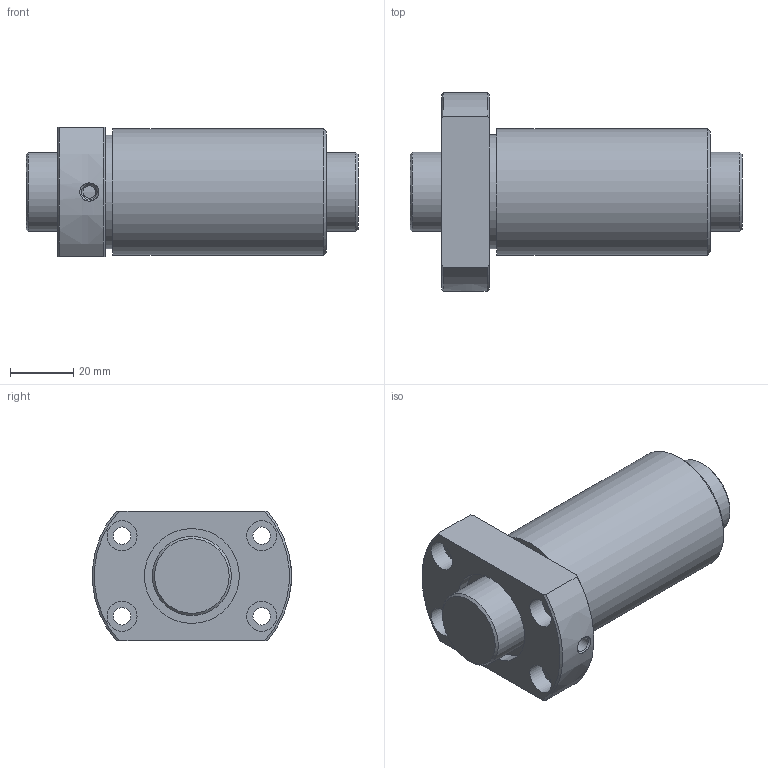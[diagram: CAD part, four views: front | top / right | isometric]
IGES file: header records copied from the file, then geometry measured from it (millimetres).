
Start section: Data from Parasolid IGES Translator 26.0.171, Copyright(c) 2006 Siemens PLM Software. All Rights Reserved.
Global section: file name: DIK2510-4RRG0+105LC0_000.igs; native system: By Siemens PLM Incorporated; preprocessor: XPlus GENERIC/IGES 26.0.171; author: Noname; organization: Noname; date: 20250113.095345; units: millimetre
Bounding box: 105 x 62.9 x 41 mm (x, y, z)
Surface area: 32983.5 mm2 (no closed solid volume)
Topology: 0 solids, 0 shells, 41 faces, 166 edges, 131 vertices
Faces by surface type: revolution 27, extrusion 14
